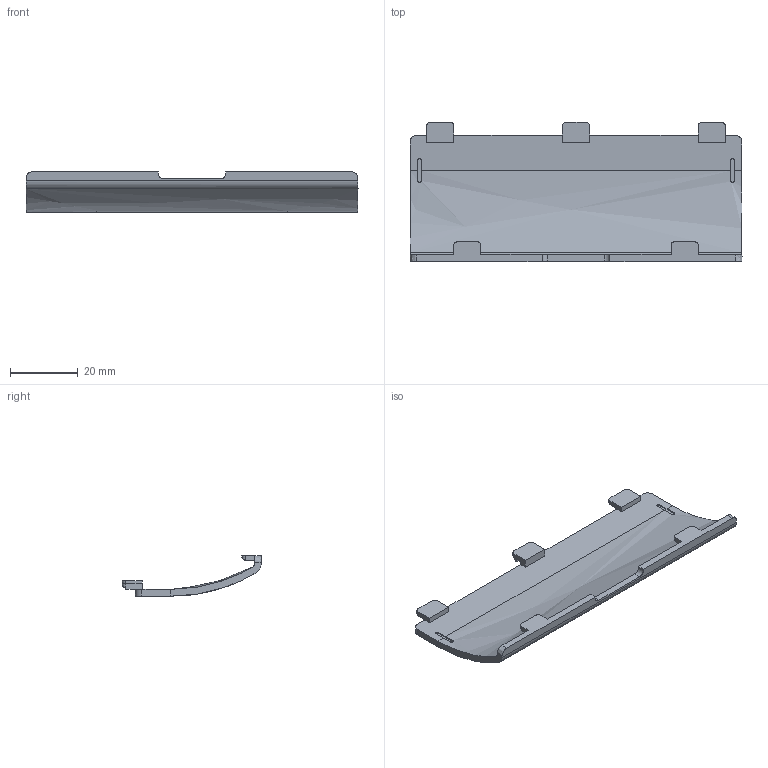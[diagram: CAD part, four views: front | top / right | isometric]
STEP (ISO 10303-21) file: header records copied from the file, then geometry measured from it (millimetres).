
FILE_DESCRIPTION(/* description */ (''),/* implementation_level */ '2;1');
FILE_NAME(/* name */ 'BAT-CO~1',/* time_stamp */ '2015-10-29T16:47:10+09:00',/* author */ (''),/* organization */ (''),/* preprocessor_version */ 'ST-DEVELOPER v15',/* originating_system */ '',/* authorisation */ '');
FILE_SCHEMA (('CONFIG_CONTROL_DESIGN'));
Length unit declared in the file: millimetre
Products named in the file (1): Document
Bounding box: 97.8 x 40.99 x 11.9 mm (x, y, z)
Volume: 8113.5 mm3; surface area: 8915.1 mm2
Topology: 1 solids, 1 shells, 98 faces, 275 edges, 178 vertices
Faces by surface type: plane 63, bspline 35
Entity records: 3609 total; most frequent: CARTESIAN_POINT 1834, ORIENTED_EDGE 550, EDGE_CURVE 275, B_SPLINE_CURVE_WITH_KNOTS 195, VERTEX_POINT 178, ADVANCED_FACE 98, FACE_OUTER_BOUND 98, EDGE_LOOP 98
